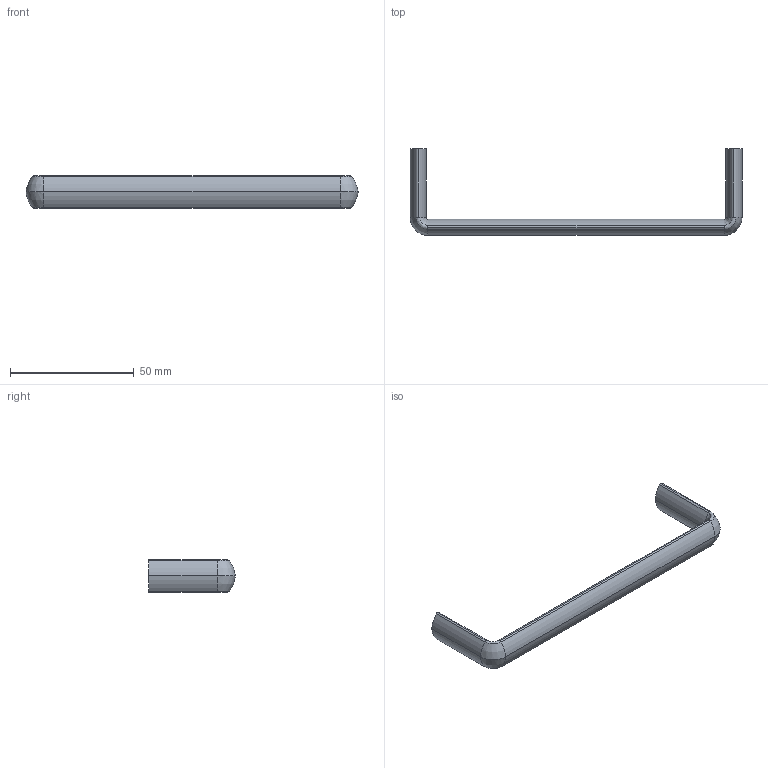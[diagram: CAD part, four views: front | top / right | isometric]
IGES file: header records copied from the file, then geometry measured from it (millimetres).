
Start section: Data from Parasolid IGES Translator 15.0.47, Copyright(c) 2006 Siemens P LM Software. All Rights Reserved.
Global section: file name: 9995471.igs; native system:  By UGS Corp.; preprocessor: XPlus GENERIC/IGES 3.0; author: Noname; organization: Noname; date: 20150708.113114; units: millimetre
Bounding box: 134 x 35 x 13 mm (x, y, z)
Surface area: 6010.3 mm2 (no closed solid volume)
Topology: 0 solids, 0 shells, 39 faces, 162 edges, 160 vertices
Faces by surface type: revolution 35, extrusion 4
